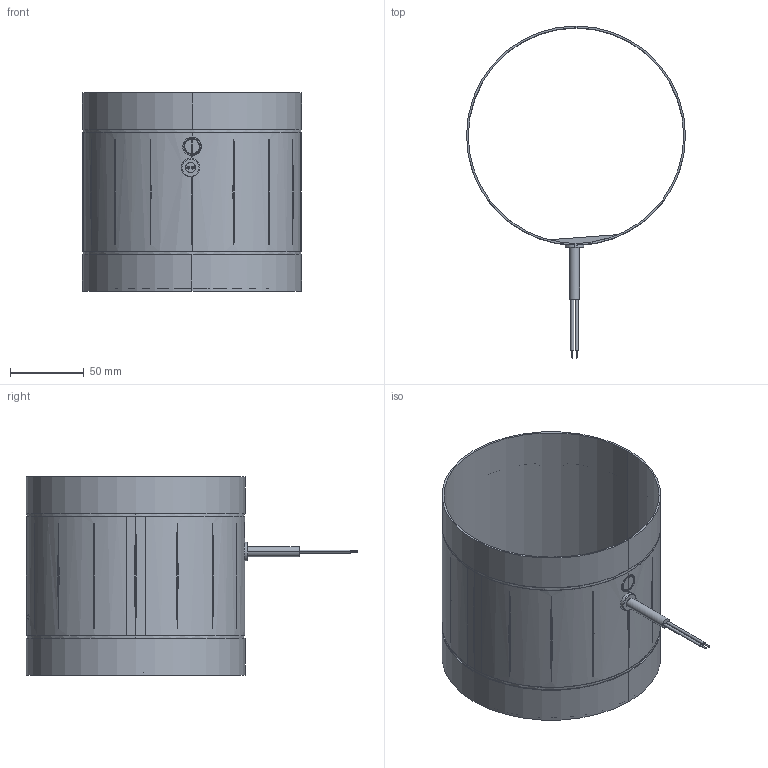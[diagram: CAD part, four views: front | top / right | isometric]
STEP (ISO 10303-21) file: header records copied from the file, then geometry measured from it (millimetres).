
FILE_DESCRIPTION (( 'STEP AP203' ), '1' );
FILE_NAME ('137588-00_EM150E201.STEP', '2016-12-06T11:51:38', ( '' ), ( '' ), 'SwSTEP 2.0', 'SolidWorks 2012', '' );
FILE_SCHEMA (( 'CONFIG_CONTROL_DESIGN' ));
Length unit declared in the file: millimetre
Products named in the file (1): 137588-00_EM150E201
Bounding box: 149 x 225.75 x 135 mm (x, y, z)
Surface area: 128497.3 mm2 (no closed solid volume)
Topology: 0 solids, 5 shells, 123 faces, 431 edges, 302 vertices
Faces by surface type: cylinder 55, bspline 37, plane 23, cone 4, torus 4
Entity records: 6583 total; most frequent: CARTESIAN_POINT 3319, ORIENTED_EDGE 644, DIRECTION 556, EDGE_CURVE 431, VERTEX_POINT 302, AXIS2_PLACEMENT_3D 240, B_SPLINE_CURVE_WITH_KNOTS 190, CIRCLE 153
